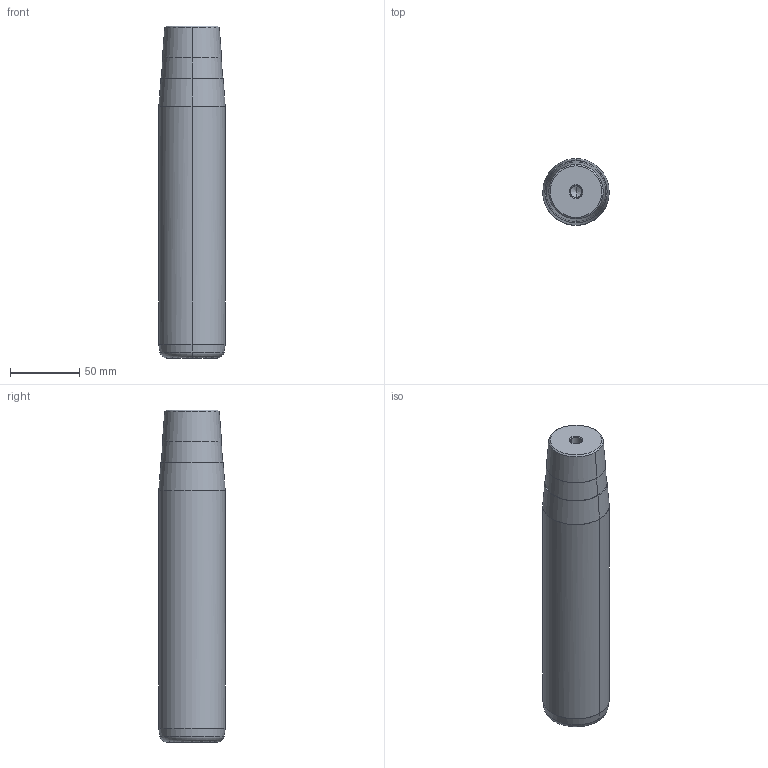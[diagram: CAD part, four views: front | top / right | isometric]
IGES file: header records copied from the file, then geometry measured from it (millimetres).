
Start section: START RECORD GO HERE.
Global section: file name: 722-48x200x240.igs; native system: DASSAULT SYSTEMES CATIA V5 R20 - www.3ds.com; preprocessor: CATIA Version 5 Release 20 ; author: Utente; organization: NB04-ASUS; date: 20210108.160325; units: millimetre
Bounding box: 48 x 48 x 240 mm (x, y, z)
Surface area: 39325.9 mm2 (no closed solid volume)
Topology: 0 solids, 0 shells, 32 faces, 192 edges, 188 vertices
Faces by surface type: revolution 30, plane 2
